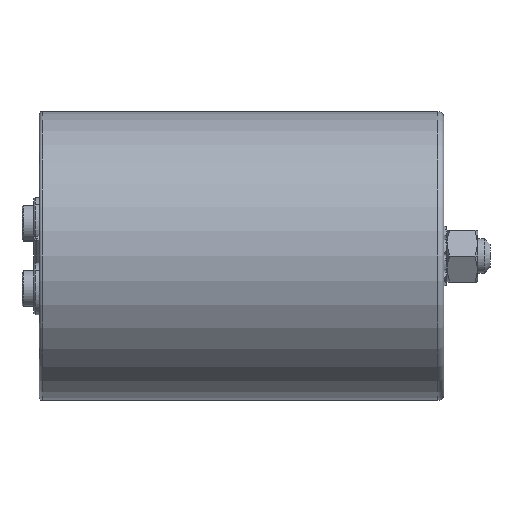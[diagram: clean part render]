
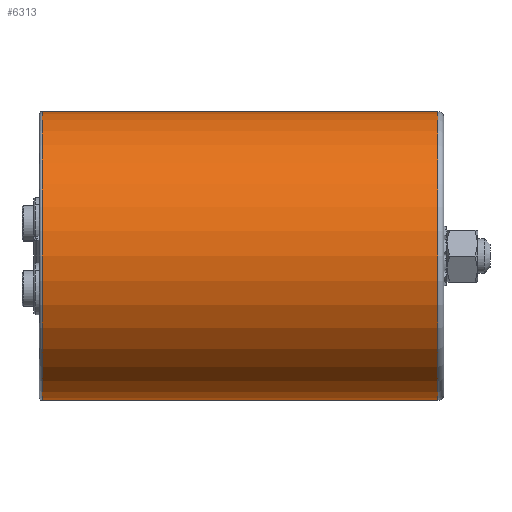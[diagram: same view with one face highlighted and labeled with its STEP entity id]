
A CAD part, left-side view. The second image highlights one B-rep face of the part: STEP entity #6313.
In plain terms, the highlighted cylindrical face has radius 50 mm (diameter 100 mm), a partial arc.
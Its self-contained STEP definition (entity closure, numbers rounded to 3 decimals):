
#20 = CARTESIAN_POINT ( 'NONE',  ( 0., -10., 50. ) ) ;
#533 = DIRECTION ( 'NONE',  ( 0., 1., 0. ) ) ;
#575 = CARTESIAN_POINT ( 'NONE',  ( 0., -10., -50. ) ) ;
#604 = DIRECTION ( 'NONE',  ( 0., 1., 0. ) ) ;
#618 = AXIS2_PLACEMENT_3D ( 'NONE', #2549, #6972, #720 ) ;
#720 = DIRECTION ( 'NONE',  ( 0., 0., -1. ) ) ;
#865 = VERTEX_POINT ( 'NONE', #1042 ) ;
#1042 = CARTESIAN_POINT ( 'NONE',  ( 0., -138., -50. ) ) ;
#1115 = CIRCLE ( 'NONE', #1387, 50. ) ;
#1212 = VERTEX_POINT ( 'NONE', #5225 ) ;
#1224 = EDGE_LOOP ( 'NONE', ( #7992, #7988, #3928, #2045 ) ) ;
#1387 = AXIS2_PLACEMENT_3D ( 'NONE', #2087, #5045, #5294 ) ;
#1661 = EDGE_CURVE ( 'NONE', #865, #7058, #3824, .T. ) ;
#1825 = FACE_OUTER_BOUND ( 'NONE', #1224, .T. ) ;
#1862 = CARTESIAN_POINT ( 'NONE',  ( 0., -138., 0. ) ) ;
#2045 = ORIENTED_EDGE ( 'NONE', *, *, #7396, .F. ) ;
#2087 = CARTESIAN_POINT ( 'NONE',  ( 0., -1., 0. ) ) ;
#2549 = CARTESIAN_POINT ( 'NONE',  ( 0., -10., 0. ) ) ;
#2674 = AXIS2_PLACEMENT_3D ( 'NONE', #1862, #604, #6263 ) ;
#3581 = VECTOR ( 'NONE', #533, 1000. ) ;
#3824 = CIRCLE ( 'NONE', #2674, 50. ) ;
#3928 = ORIENTED_EDGE ( 'NONE', *, *, #6971, .T. ) ;
#5037 = DIRECTION ( 'NONE',  ( 0., 1., 0. ) ) ;
#5045 = DIRECTION ( 'NONE',  ( 0., -1., 0. ) ) ;
#5071 = VECTOR ( 'NONE', #5037, 1000. ) ;
#5225 = CARTESIAN_POINT ( 'NONE',  ( 0., -1., 50. ) ) ;
#5294 = DIRECTION ( 'NONE',  ( 0., 0., 1. ) ) ;
#5377 = CYLINDRICAL_SURFACE ( 'NONE', #618, 50. ) ;
#5661 = VERTEX_POINT ( 'NONE', #7529 ) ;
#6263 = DIRECTION ( 'NONE',  ( 0., 0., -1. ) ) ;
#6313 = ADVANCED_FACE ( 'NONE', ( #1825 ), #5377, .T. ) ;
#6807 = EDGE_CURVE ( 'NONE', #7058, #1212, #7999, .T. ) ;
#6971 = EDGE_CURVE ( 'NONE', #1212, #5661, #1115, .T. ) ;
#6972 = DIRECTION ( 'NONE',  ( 0., 1., 0. ) ) ;
#7058 = VERTEX_POINT ( 'NONE', #7693 ) ;
#7396 = EDGE_CURVE ( 'NONE', #865, #5661, #7792, .T. ) ;
#7529 = CARTESIAN_POINT ( 'NONE',  ( 0., -1., -50. ) ) ;
#7693 = CARTESIAN_POINT ( 'NONE',  ( 0., -138., 50. ) ) ;
#7792 = LINE ( 'NONE', #575, #3581 ) ;
#7988 = ORIENTED_EDGE ( 'NONE', *, *, #6807, .T. ) ;
#7992 = ORIENTED_EDGE ( 'NONE', *, *, #1661, .T. ) ;
#7999 = LINE ( 'NONE', #20, #5071 ) ;
